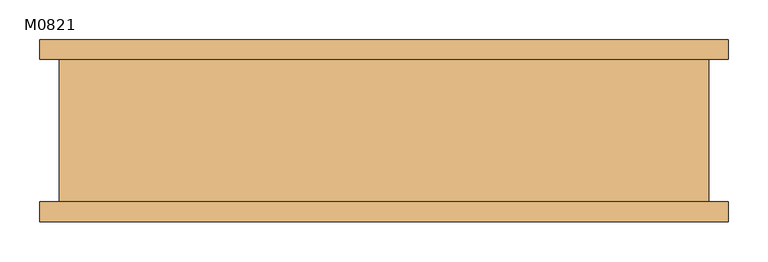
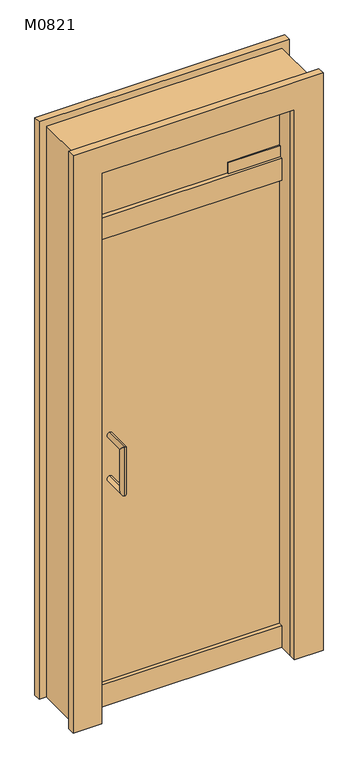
"""IFC4 building model written with IfcOpenShell, lengths in millimetres: door geometry, 平开玻璃门B-单扇2 : M0821."""

from ifc_helpers import new_model, si_unit, frame, origin, origin_with_axes, place, context, project, spatial, polyline, circle_curve, ellipse_curve, outline, extrude, source, transform, mapped, element, save
from ifc_brep_helpers import plane_surface, cylinder_surface, advanced_brep


def m0821_c18f4d9a(model_context):
    return source(origin(), model_context, "Body", "SolidModel", [
        extrude(outline(polyline([(-15.0, 1840.0), (-10.0, 1840.0), (-10.0, 1805.0), (10.0, 1805.0), (10.0, 1840.0), (15.0, 1840.0), (15.0, 1800.0), (-15.0, 1800.0), (-15.0, 1840.0)])), frame((-95.0, 0.0, 0.0), z_axis=(1.0, 0.0, 0.0), x_axis=(0.0, 1.0, 0.0)), (0.0, 0.0, 1.0), 180.0),
        advanced_brep(
        [(-505.0, -10.0, 970.0), (-505.0, -10.0, 990.0), (-505.0, -10.0, 830.0), (-505.0, -10.0, 810.0), (-505.0, -100.0, 990.0), (-505.0, -80.0, 970.0), (-505.0, -100.0, 810.0), (-505.0, -80.0, 830.0)],
        [
            (0, 1, circle_curve(frame((-505.0, -10.0, 980.0), z_axis=(0.0, 1.0, 0.0), x_axis=(0.0, 0.0, 1.0)), 10.0)),
            (1, 0, circle_curve(frame((-505.0, -10.0, 980.0), z_axis=(0.0, 1.0, 0.0), x_axis=(0.0, 0.0, 1.0)), 10.0)),
            (2, 3, circle_curve(frame((-505.0, -10.0, 820.0), z_axis=(0.0, 1.0, 0.0), x_axis=(0.0, 0.0, -1.0)), 10.0)),
            (3, 2, circle_curve(frame((-505.0, -10.0, 820.0), z_axis=(0.0, 1.0, 0.0), x_axis=(0.0, 0.0, -1.0)), 10.0)),
            (1, 4),
            (4, 5, ellipse_curve(frame((-505.0, -90.0, 980.0), z_axis=(0.0, 0.7071067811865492, 0.7071067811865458), x_axis=(0.0, 0.7071067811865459, -0.7071067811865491)), 14.1421356, 10.0)),
            (5, 0),
            (5, 4, ellipse_curve(frame((-505.0, -90.0, 980.0), z_axis=(0.0, 0.7071067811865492, 0.7071067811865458), x_axis=(0.0, 0.7071067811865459, -0.7071067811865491)), 14.1421356, 10.0)),
            (4, 6),
            (6, 7, ellipse_curve(frame((-505.0, -90.0, 820.0), z_axis=(0.0, -0.7071067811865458, 0.7071067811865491), x_axis=(0.0, 0.7071067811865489, 0.707106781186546)), 14.1421356, 10.0)),
            (7, 5),
            (7, 6, ellipse_curve(frame((-505.0, -90.0, 820.0), z_axis=(0.0, -0.7071067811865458, 0.7071067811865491), x_axis=(0.0, 0.7071067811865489, 0.707106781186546)), 14.1421356, 10.0)),
            (6, 3),
            (2, 7),
        ],
        [
            plane_surface(frame((-250.0, -10.0, 980.0), z_axis=(0.0, 1.0, 0.0), x_axis=(1.0, 0.0, 0.0))),
            plane_surface(frame((-250.0, -10.0, 820.0), z_axis=(0.0, 1.0, 0.0), x_axis=(1.0, 0.0, 0.0))),
            cylinder_surface(frame((-505.0, -10.0, 980.0), z_axis=(0.0, 1.0, 0.0), x_axis=(0.0, 0.0, 1.0)), 10.0),
            cylinder_surface(frame((-505.0, -90.0, 980.0), z_axis=(0.0, 0.0, 1.0), x_axis=(0.0, -1.0, 0.0)), 10.0),
            cylinder_surface(frame((-505.0, -90.0, 820.0), z_axis=(0.0, -1.0, 0.0), x_axis=(0.0, 0.0, -1.0)), 10.0),
        ],
        [
            (0, [[1, 2]]),
            (1, [[3, 4]]),
            (2, [[5, 6, 7, -2]]),
            (2, [[-7, 8, -5, -1]]),
            (3, [[9, 10, 11, -6]]),
            (3, [[-11, 12, -9, -8]]),
            (4, [[13, -3, 14, -10]]),
            (4, [[-14, -4, -13, -12]]),
        ],
    ),
        advanced_brep(
        [(-505.0, 10.0, 990.0), (-505.0, 10.0, 970.0), (-505.0, 10.0, 810.0), (-505.0, 10.0, 830.0), (-505.0, 80.0, 970.0), (-505.0, 100.0, 990.0), (-505.0, 80.0, 830.0), (-505.0, 100.0, 810.0)],
        [
            (0, 1, circle_curve(frame((-505.0, 10.0, 980.0), z_axis=(0.0, -1.0, 0.0), x_axis=(0.0, 0.0, -1.0)), 10.0)),
            (1, 0, circle_curve(frame((-505.0, 10.0, 980.0), z_axis=(0.0, -1.0, 0.0), x_axis=(0.0, 0.0, -1.0)), 10.0)),
            (2, 3, circle_curve(frame((-505.0, 10.0, 820.0), z_axis=(0.0, -1.0, 0.0), x_axis=(0.0, 0.0, 1.0)), 10.0)),
            (3, 2, circle_curve(frame((-505.0, 10.0, 820.0), z_axis=(0.0, -1.0, 0.0), x_axis=(0.0, 0.0, 1.0)), 10.0)),
            (1, 4),
            (4, 5, ellipse_curve(frame((-505.0, 90.0, 980.0), z_axis=(0.0, -0.7071067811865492, 0.7071067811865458), x_axis=(0.0, -0.7071067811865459, -0.7071067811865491)), 14.1421356, 10.0)),
            (5, 0),
            (5, 4, ellipse_curve(frame((-505.0, 90.0, 980.0), z_axis=(0.0, -0.7071067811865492, 0.7071067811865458), x_axis=(0.0, -0.7071067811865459, -0.7071067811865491)), 14.1421356, 10.0)),
            (4, 6),
            (6, 7, ellipse_curve(frame((-505.0, 90.0, 820.0), z_axis=(0.0, 0.7071067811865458, 0.7071067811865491), x_axis=(0.0, -0.7071067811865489, 0.707106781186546)), 14.1421356, 10.0)),
            (7, 5),
            (7, 6, ellipse_curve(frame((-505.0, 90.0, 820.0), z_axis=(0.0, 0.7071067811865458, 0.7071067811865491), x_axis=(0.0, -0.7071067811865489, 0.707106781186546)), 14.1421356, 10.0)),
            (6, 3),
            (2, 7),
        ],
        [
            plane_surface(frame((-250.0, 10.0, 980.0), z_axis=(0.0, -1.0, 0.0), x_axis=(1.0, 0.0, 0.0))),
            plane_surface(frame((-250.0, 10.0, 820.0), z_axis=(0.0, -1.0, 0.0), x_axis=(1.0, 0.0, 0.0))),
            cylinder_surface(frame((-505.0, 10.0, 980.0), z_axis=(0.0, -1.0, 0.0), x_axis=(0.0, 0.0, -1.0)), 10.0),
            cylinder_surface(frame((-505.0, 90.0, 980.0), z_axis=(0.0, 0.0, 1.0), x_axis=(0.0, -1.0, 0.0)), 10.0),
            cylinder_surface(frame((-505.0, 90.0, 820.0), z_axis=(0.0, 1.0, 0.0), x_axis=(0.0, 0.0, 1.0)), 10.0),
        ],
        [
            (0, [[1, 2]]),
            (1, [[3, 4]]),
            (2, [[5, 6, 7, -2]]),
            (2, [[-7, 8, -5, -1]]),
            (3, [[9, 10, 11, -6]]),
            (3, [[-11, 12, -9, -8]]),
            (4, [[13, -3, 14, -10]]),
            (4, [[-14, -4, -13, -12]]),
        ],
    ),
        extrude(outline(polyline([(25.0, 1800.0), (25.0, 1720.0), (10.0, 1720.0), (10.0, 1740.0), (-10.0, 1740.0), (-10.0, 1720.0), (-25.0, 1720.0), (-25.0, 1800.0), (25.0, 1800.0)])), frame((-585.0, 0.0, 0.0), z_axis=(1.0, 0.0, 0.0), x_axis=(0.0, 1.0, 0.0)), (0.0, 0.0, 1.0), 670.0),
        extrude(outline(polyline([(25.0, 0.0), (-25.0, 0.0), (-25.0, 80.0), (-10.0, 80.0), (-10.0, 60.0), (10.0, 60.0), (10.0, 80.0), (25.0, 80.0), (25.0, 0.0)])), frame((-585.0, 0.0, 0.0), z_axis=(1.0, 0.0, 0.0), x_axis=(0.0, 1.0, 0.0)), (0.0, 0.0, 1.0), 670.0),
        extrude(outline(polyline([(2025.0, -585.0), (2025.0, 85.0), (0.0, 85.0), (0.0, 185.0), (2125.0, 185.0), (2125.0, -685.0), (0.0, -685.0), (0.0, -585.0), (2025.0, -585.0)])), frame((0.0, -100.0, 0.0), z_axis=(0.0, 1.0, 0.0), x_axis=(0.0, 0.0, 1.0)), (0.0, 0.0, 1.0), 25.0),
        extrude(outline(polyline([(2125.0, 185.0), (2125.0, -685.0), (0.0, -685.0), (0.0, -585.0), (2025.0, -585.0), (2025.0, 85.0), (0.0, 85.0), (0.0, 185.0), (2125.0, 185.0)])), frame((0.0, 105.0, 0.0), z_axis=(0.0, 1.0, 0.0), x_axis=(0.0, 0.0, 1.0)), (0.0, 0.0, 1.0), 25.0),
        extrude(outline(polyline([(85.0, 10.0), (85.0, -10.0), (-585.0, -10.0), (-585.0, 10.0), (85.0, 10.0)])), frame((0.0, 0.0, 1800.0), z_axis=(0.0, 0.0, 1.0), x_axis=(1.0, 0.0, 0.0)), (0.0, 0.0, 1.0), 225.0),
        extrude(outline(polyline([(2025.0, 85.0), (0.0, 85.0), (0.0, 160.0), (2100.0, 160.0), (2100.0, -660.0), (0.0, -660.0), (0.0, -585.0), (2025.0, -585.0), (2025.0, 85.0)])), frame((0.0, -75.0, 0.0), z_axis=(0.0, 1.0, 0.0), x_axis=(0.0, 0.0, 1.0)), (0.0, 0.0, 1.0), 180.0),
        extrude(outline(polyline([(85.0, 10.0), (85.0, -10.0), (-585.0, -10.0), (-585.0, 10.0), (85.0, 10.0)])), origin_with_axes(), (0.0, 0.0, 1.0), 1800.0),
    ])


if __name__ == "__main__":
    model = new_model("IFC4")
    model_context = context("Model", 3, world=origin())
    ifc_project = project(units=[si_unit("LENGTHUNIT", "METRE", prefix="MILLI")], contexts=[model_context])
    site = spatial("IfcSite", under=ifc_project)
    building = spatial("IfcBuilding", under=site)
    placement = place(None, origin())
    m0821_shape = m0821_c18f4d9a(model_context)
    element("IfcDoor", 1, ObjectType="平开玻璃门B-单扇2 : M0821", at=placement, inside=building, context=model_context, shape_type="MappedRepresentation", body=[
        mapped(m0821_shape, transform((0.0, 0.0, 0.0), x_axis=(1.0, 0.0, 0.0), y_axis=(0.0, 1.0, 0.0), z_axis=(0.0, 0.0, 1.0))),
    ])
    save(model, "model.ifc")
